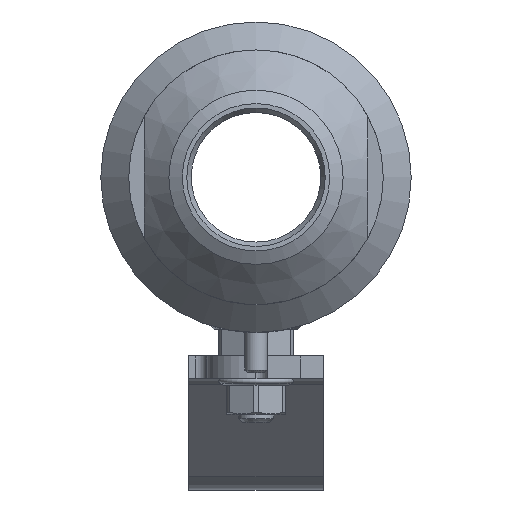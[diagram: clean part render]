
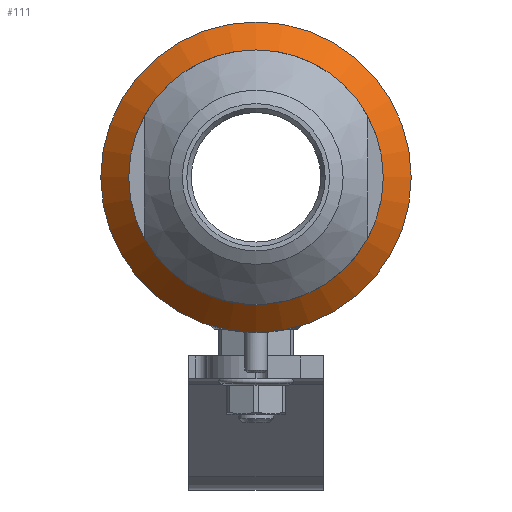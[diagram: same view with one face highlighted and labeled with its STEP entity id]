
A CAD part, left-side view. The second image highlights one B-rep face of the part: STEP entity #111.
In plain terms, the highlighted conical face has half-angle 45 degrees and reference radius 31.625 mm.
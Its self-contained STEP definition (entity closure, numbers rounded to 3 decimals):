
#111=ADVANCED_FACE('',(#728),#730,.T.);
#728=FACE_OUTER_BOUND('',#729,.T.);
#729=EDGE_LOOP('',(#1661,#1662,#1663,#1664,#1665));
#730=CONICAL_SURFACE('',#731,31.625,0.785);
#731=AXIS2_PLACEMENT_3D('',#732,#733,#734);
#732=CARTESIAN_POINT('',(-22.875,0.,0.));
#733=DIRECTION('',(1.,0.,0.));
#734=DIRECTION('',(0.,1.,0.));
#1661=ORIENTED_EDGE('',*,*,#2446,.F.);
#1662=ORIENTED_EDGE('',*,*,#2447,.F.);
#1663=ORIENTED_EDGE('',*,*,#2448,.T.);
#1664=ORIENTED_EDGE('',*,*,#2434,.T.);
#1665=ORIENTED_EDGE('',*,*,#2448,.F.);
#2434=EDGE_CURVE('',#2728,#2728,#2730,.T.);
#2446=EDGE_CURVE('',#2746,#2747,#2748,.T.);
#2447=EDGE_CURVE('',#2747,#2746,#2749,.T.);
#2448=EDGE_CURVE('',#2747,#2728,#2750,.T.);
#2728=VERTEX_POINT('',#3770);
#2730=CIRCLE('',#3774,34.75);
#2746=VERTEX_POINT('',#3915);
#2747=VERTEX_POINT('',#3916);
#2748=CIRCLE('',#3917,28.5);
#2749=CIRCLE('',#3921,28.5);
#2750=LINE('',#3925,#3926);
#3770=CARTESIAN_POINT('',(-19.75,-34.75,0.));
#3774=AXIS2_PLACEMENT_3D('',#3775,#3776,#3777);
#3775=CARTESIAN_POINT('',(-19.75,0.,0.));
#3776=DIRECTION('',(-1.,-0.,0.));
#3777=DIRECTION('',(0.,-1.,0.));
#3915=CARTESIAN_POINT('',(-26.,0.,28.5));
#3916=CARTESIAN_POINT('',(-26.,-28.5,0.));
#3917=AXIS2_PLACEMENT_3D('',#3918,#3919,#3920);
#3918=CARTESIAN_POINT('',(-26.,0.,0.));
#3919=DIRECTION('',(-1.,-0.,0.));
#3920=DIRECTION('',(0.,0.,1.));
#3921=AXIS2_PLACEMENT_3D('',#3922,#3923,#3924);
#3922=CARTESIAN_POINT('',(-26.,0.,0.));
#3923=DIRECTION('',(-1.,-0.,0.));
#3924=DIRECTION('',(0.,-1.,0.));
#3925=CARTESIAN_POINT('',(-26.,-28.5,0.));
#3926=VECTOR('',#3927,1.);
#3927=DIRECTION('',(0.707,-0.707,0.));
